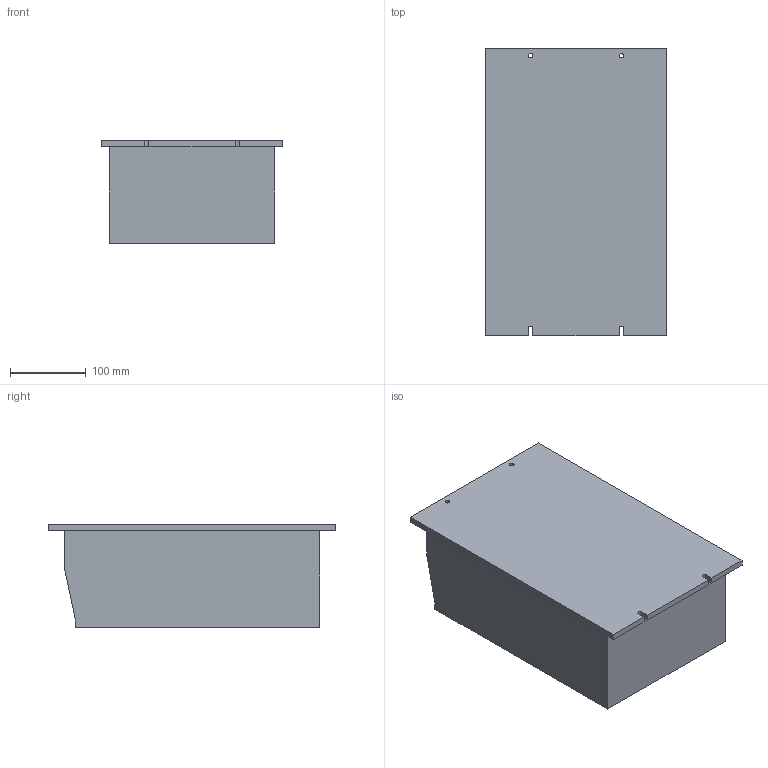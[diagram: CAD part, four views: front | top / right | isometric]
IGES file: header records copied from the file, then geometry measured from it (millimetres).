
Start section:  PTC IGES file: j3-30-37k-base.igs
Global section: file name: j3-30-37k-base.igs; native system: Pro/ENGINEER by Parametric Technology Corporation; preprocessor: 2006420; author: JE18792; organization: Unknown; date: 20101129.152800; units: millimetre
Bounding box: 240 x 380 x 136 mm (x, y, z)
Volume: 9145264.9 mm3; surface area: 352922.9 mm2
Topology: 1 solids, 1 shells, 31 faces, 84 edges, 56 vertices
Faces by surface type: bspline 31
